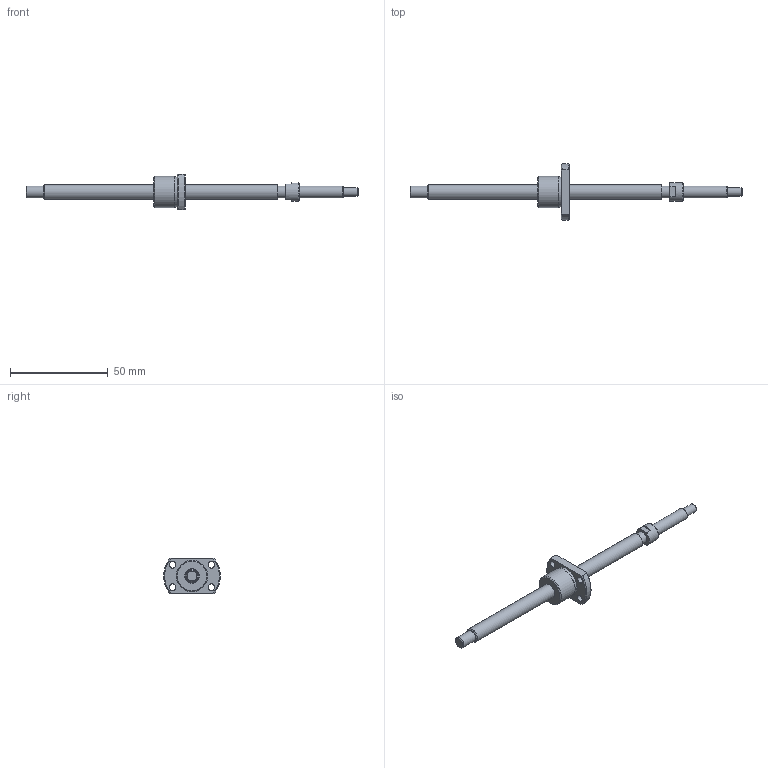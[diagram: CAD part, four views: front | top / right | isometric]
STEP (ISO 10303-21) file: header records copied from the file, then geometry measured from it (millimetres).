
FILE_DESCRIPTION(/* description */ ('STEP AP214'),/* implementation_level */ '2;1');
FILE_NAME(/* name */ 'SG0802.5-120R170C5C0X(56.5)',/* time_stamp */ '2026-07-21T16:47:42+02:00',/* author */ ('License CC BY-ND 4.0'),/* organization */ ('CADENAS'),/* preprocessor_version */ 'ST-DEVELOPER v20',/* originating_system */ 'PARTsolutions',/* authorisation */ ' ');
FILE_SCHEMA (('AUTOMOTIVE_DESIGN {1 0 10303 214 3 1 1}'));
Length unit declared in the file: millimetre
Products named in the file (3): SG0802.5-120R170C5C0X(56.5); SG0802.5-120R170C5C_shaft; SG0802.5 C5_nut
Assembly tree (2 placements, depth 2):
  SG0802.5-120R170C5C0X(56.5)
    SG0802.5-120R170C5C_shaft
    SG0802.5 C5_nut
Bounding box: 170 x 29 x 18 mm (x, y, z)
Volume: 10308.4 mm3; surface area: 6243.3 mm2
Topology: 2 solids, 2 shells, 47 faces, 98 edges, 63 vertices
Faces by surface type: plane 19, cylinder 17, cone 10, torus 1
Full cylindrical faces by diameter (mm): 3.4 x4, 4.5 x1, 6 x3, 7.5 x2, 9.5 x1, 15.7 x1, 16 x1
Entity records: 1258 total; most frequent: DIRECTION 217, CARTESIAN_POINT 213, ORIENTED_EDGE 154, AXIS2_PLACEMENT_3D 98, EDGE_LOOP 85, FACE_BOUND 85, EDGE_CURVE 77, VERTEX_POINT 62
